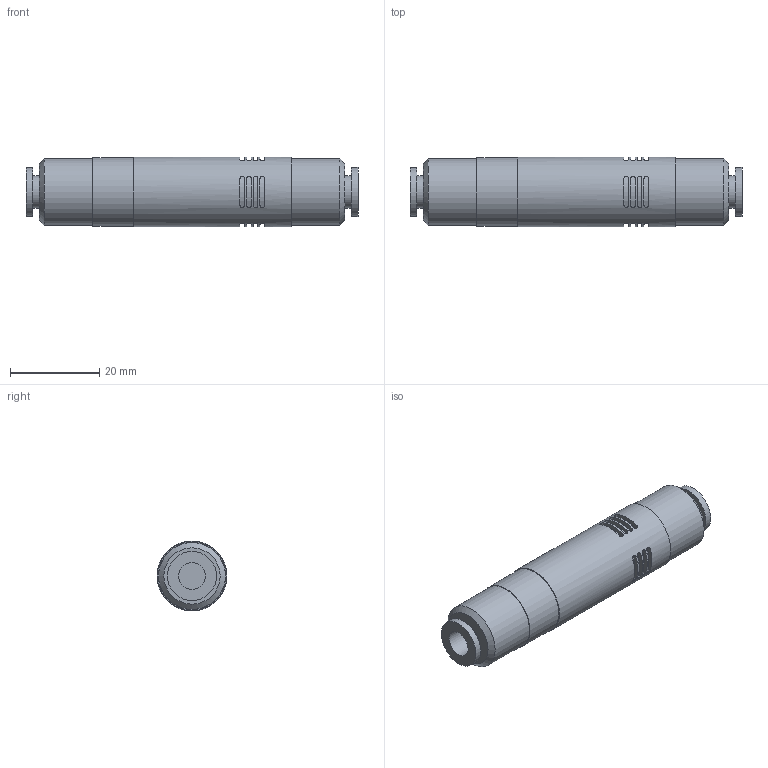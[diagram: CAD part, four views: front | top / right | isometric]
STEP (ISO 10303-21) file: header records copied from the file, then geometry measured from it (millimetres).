
FILE_DESCRIPTION (( 'STEP AP214' ), '1' );
FILE_NAME ('V-VUH-10-66.STEP', '2025-01-29T16:57:43', ( '' ), ( '' ), 'SwSTEP 2.0', 'SolidWorks 2018', '' );
FILE_SCHEMA (( 'AUTOMOTIVE_DESIGN' ));
Length unit declared in the file: millimetre
Products named in the file (1): V-VUH-10-66
Bounding box: 74.5 x 15.65 x 15.65 mm (x, y, z)
Volume: 12449.4 mm3; surface area: 4608.7 mm2
Topology: 1 solids, 1 shells, 103 faces, 242 edges, 162 vertices
Faces by surface type: cylinder 58, plane 43, cone 2
Full cylindrical faces by diameter (mm): 6 x2, 7.3 x2, 11 x2, 15 x2, 15.3 x1, 15.65 x1
Entity records: 3496 total; most frequent: CARTESIAN_POINT 1268, DIRECTION 444, ORIENTED_EDGE 428, EDGE_CURVE 214, AXIS2_PLACEMENT_3D 190, VERTEX_POINT 150, EDGE_LOOP 140, FACE_OUTER_BOUND 113
